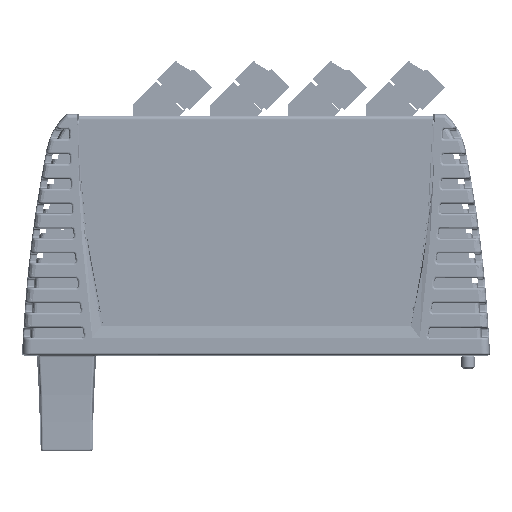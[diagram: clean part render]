
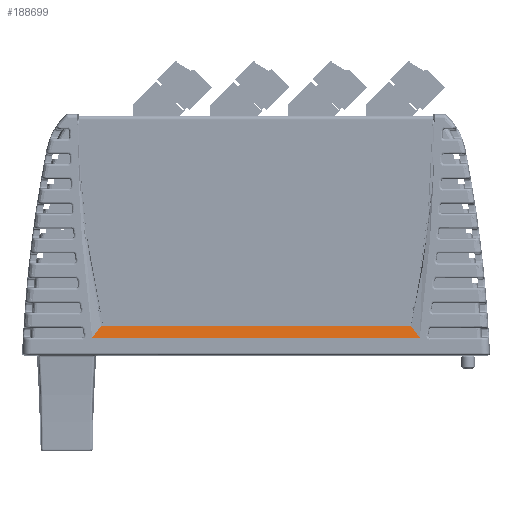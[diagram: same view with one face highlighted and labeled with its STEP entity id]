
A CAD part, left-side view. The second image highlights one B-rep face of the part: STEP entity #188699.
In plain terms, the highlighted planar face has unit normal (-0.986, 0, 0.164).
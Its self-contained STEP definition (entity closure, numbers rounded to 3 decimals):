
#3165 = CARTESIAN_POINT ( 'NONE',  ( -8.7, -13.75, -27.5 ) ) ;
#22232 = PLANE ( 'NONE',  #136827 ) ;
#26811 = CARTESIAN_POINT ( 'NONE',  ( -8.2, 39., -24.5 ) ) ;
#30465 = CARTESIAN_POINT ( 'NONE',  ( -8.45, 40.125, -26. ) ) ;
#39110 = CARTESIAN_POINT ( 'NONE',  ( -8.7, -41.25, -27.5 ) ) ;
#45873 = VERTEX_POINT ( 'NONE', #168641 ) ;
#46414 = CARTESIAN_POINT ( 'NONE',  ( -8.2, 0., -24.5 ) ) ;
#56943 = DIRECTION ( 'NONE',  ( 0.986, 0., -0.164 ) ) ;
#62115 = EDGE_CURVE ( 'NONE', #89030, #157045, #202921, .T. ) ;
#65554 = VECTOR ( 'NONE', #116400, 1000. ) ;
#89030 = VERTEX_POINT ( 'NONE', #26811 ) ;
#89157 = CARTESIAN_POINT ( 'NONE',  ( -8.7, 13.75, -27.5 ) ) ;
#97950 = VERTEX_POINT ( 'NONE', #39110 ) ;
#105947 = ORIENTED_EDGE ( 'NONE', *, *, #148115, .T. ) ;
#111117 = ORIENTED_EDGE ( 'NONE', *, *, #208765, .F. ) ;
#112774 = CARTESIAN_POINT ( 'NONE',  ( -8.7, 41.25, -27.5 ) ) ;
#116400 = DIRECTION ( 'NONE',  ( -0.132, 0.595, -0.793 ) ) ;
#118494 = EDGE_CURVE ( 'NONE', #89030, #45873, #122498, .T. ) ;
#122498 = LINE ( 'NONE', #46414, #214025 ) ;
#123732 = CARTESIAN_POINT ( 'NONE',  ( -8.7, -41.25, -27.5 ) ) ;
#136827 = AXIS2_PLACEMENT_3D ( 'NONE', #142867, #56943, #177453 ) ;
#142867 = CARTESIAN_POINT ( 'NONE',  ( -8.7, 41.745, -27.5 ) ) ;
#148115 = EDGE_CURVE ( 'NONE', #157045, #97950, #166445, .T. ) ;
#157045 = VERTEX_POINT ( 'NONE', #112774 ) ;
#166445 = B_SPLINE_CURVE_WITH_KNOTS ( 'NONE', 3,
 ( #209506, #89157, #3165, #123732 ),
 .UNSPECIFIED., .F., .F.,
 ( 4, 4 ),
 ( 0., 1. ),
 .UNSPECIFIED. ) ;
#166949 = DIRECTION ( 'NONE',  ( 0., -1., 0. ) ) ;
#168641 = CARTESIAN_POINT ( 'NONE',  ( -8.2, -39., -24.5 ) ) ;
#170541 = ORIENTED_EDGE ( 'NONE', *, *, #62115, .T. ) ;
#172153 = B_SPLINE_CURVE_WITH_KNOTS ( 'NONE', 1,
 ( #199013, #181733 ),
 .UNSPECIFIED., .F., .F.,
 ( 2, 2 ),
 ( 0., 1. ),
 .UNSPECIFIED. ) ;
#177453 = DIRECTION ( 'NONE',  ( 0.164, 0., 0.986 ) ) ;
#177661 = EDGE_LOOP ( 'NONE', ( #105947, #111117, #203350, #170541 ) ) ;
#181733 = CARTESIAN_POINT ( 'NONE',  ( -8.7, -41.25, -27.5 ) ) ;
#183036 = FACE_OUTER_BOUND ( 'NONE', #177661, .T. ) ;
#188699 = ADVANCED_FACE ( 'NONE', ( #183036 ), #22232, .F. ) ;
#199013 = CARTESIAN_POINT ( 'NONE',  ( -8.2, -39., -24.5 ) ) ;
#202921 = LINE ( 'NONE', #30465, #65554 ) ;
#203350 = ORIENTED_EDGE ( 'NONE', *, *, #118494, .F. ) ;
#208765 = EDGE_CURVE ( 'NONE', #45873, #97950, #172153, .T. ) ;
#209506 = CARTESIAN_POINT ( 'NONE',  ( -8.7, 41.25, -27.5 ) ) ;
#214025 = VECTOR ( 'NONE', #166949, 1000. ) ;
